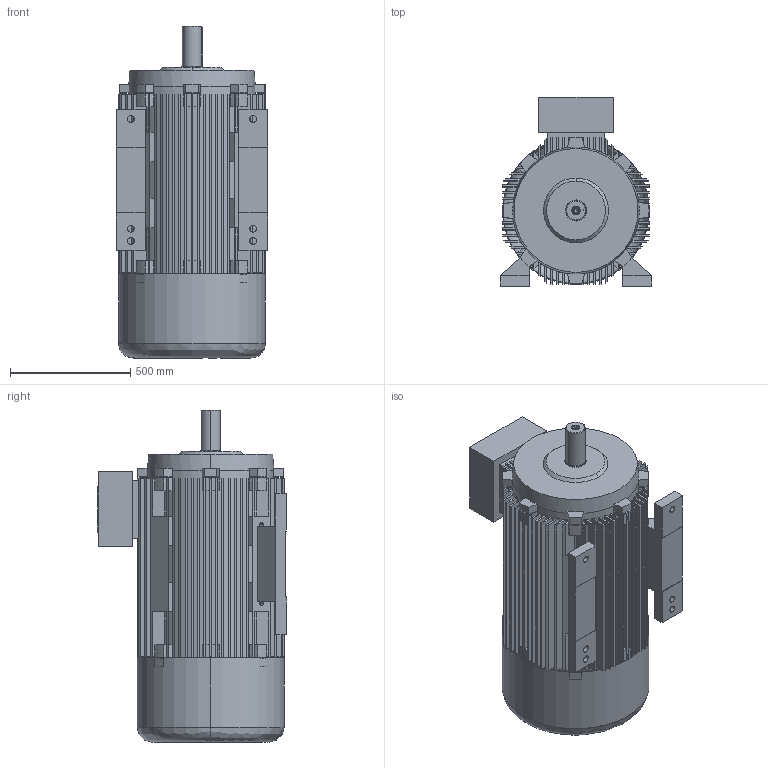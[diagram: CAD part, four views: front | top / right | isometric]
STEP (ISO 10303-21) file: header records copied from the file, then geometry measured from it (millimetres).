
FILE_DESCRIPTION (( 'STEP AP203' ), '1' );
FILE_NAME ('20.18383_A 7AZ 315LX -4, -6 B3 STANDK.STEP', '2018-04-06T06:12:53', ( '' ), ( '' ), 'SwSTEP 2.0', 'SolidWorks 2017', '' );
FILE_SCHEMA (( 'CONFIG_CONTROL_DESIGN' ));
Length unit declared in the file: millimetre
Products named in the file (1): 20.18383_A  7AZ 315LX -4, -6 B3 STANDK
Bounding box: 628 x 785 x 1380 mm (x, y, z)
Volume: 100216056 mm3; surface area: 11656012.4 mm2
Topology: 8 solids, 8 shells, 830 faces, 2248 edges, 1489 vertices
Faces by surface type: plane 676, cylinder 119, cone 22, bspline 13
Entity records: 26844 total; most frequent: CARTESIAN_POINT 5543, ORIENTED_EDGE 4492, DIRECTION 4306, EDGE_CURVE 2246, VECTOR 1698, LINE 1698, VERTEX_POINT 1489, AXIS2_PLACEMENT_3D 1304
